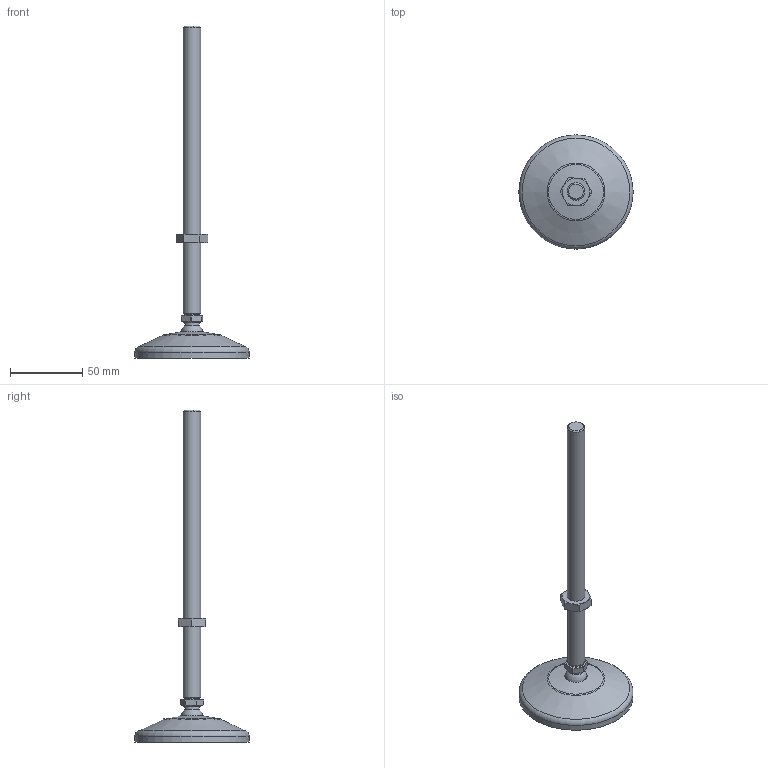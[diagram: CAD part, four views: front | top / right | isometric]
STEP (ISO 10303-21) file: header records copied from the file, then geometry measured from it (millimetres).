
FILE_DESCRIPTION(('STEP AP242'),'1');
FILE_NAME('TAPID80M12200PA.stp','2026-10-12T12:47:08',(' '),(' '),'Spatial InterOp 3D',' ',' ');
FILE_SCHEMA(('AP242_MANAGED_MODEL_BASED_3D_ENGINEERING_MIM_LF {1 0 10303 442 1 1 4}'));
Length unit declared in the file: millimetre
Products named in the file (4): TAPID80M12200PA; Ecrou H DIN 439 M12; Tige filetée M12x200 (Ø15); Embase PA Ø80 (Ø15)
Assembly tree (3 placements, depth 2):
  TAPID80M12200PA
    Ecrou H DIN 439 M12
    Tige filetée M12x200 (Ø15)
    Embase PA Ø80 (Ø15)
Bounding box: 79 x 79 x 229.5 mm (x, y, z)
Volume: 67814.3 mm3; surface area: 22747.4 mm2
Topology: 3 solids, 4 shells, 81 faces, 175 edges, 104 vertices
Faces by surface type: torus 30, plane 22, cylinder 20, cone 7, sphere 2
Full cylindrical faces by diameter (mm): 10 x1, 10.2 x1, 10.25 x1, 12 x1, 15 x1, 15.5 x1, 69 x1, 79 x1
Entity records: 3378 total; most frequent: CARTESIAN_POINT 910, DIRECTION 346, ORIENTED_EDGE 296, AXIS2_PLACEMENT_3D 161, EDGE_CURVE 148, EDGE_LOOP 108, VERTEX_POINT 100, FACE_OUTER_BOUND 95
